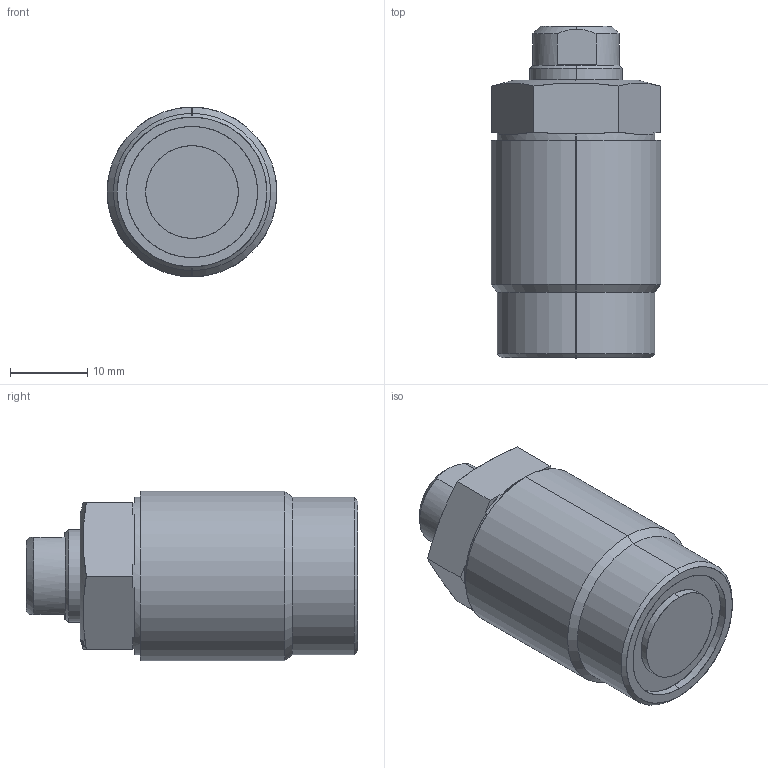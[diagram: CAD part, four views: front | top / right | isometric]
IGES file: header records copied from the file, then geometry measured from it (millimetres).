
Start section: SolidWorks IGES file using analytic representation for surfaces
Global section: file name: D:\karuppas\Clasp\3D model\Thread body cylinder\T03C-M221 -M threaded pusher\T03C-M221-M threaded pusher.IGS; native system: SolidWorks 2017; preprocessor: SolidWorks 2017; author: pc; date: 220709.230549; units: millimetre
Bounding box: 22 x 43 x 22 mm (x, y, z)
Surface area: 4788 mm2 (no closed solid volume)
Topology: 0 solids, 0 shells, 244 faces, 2584 edges, 2582 vertices
Faces by surface type: bspline 215, revolution 29
